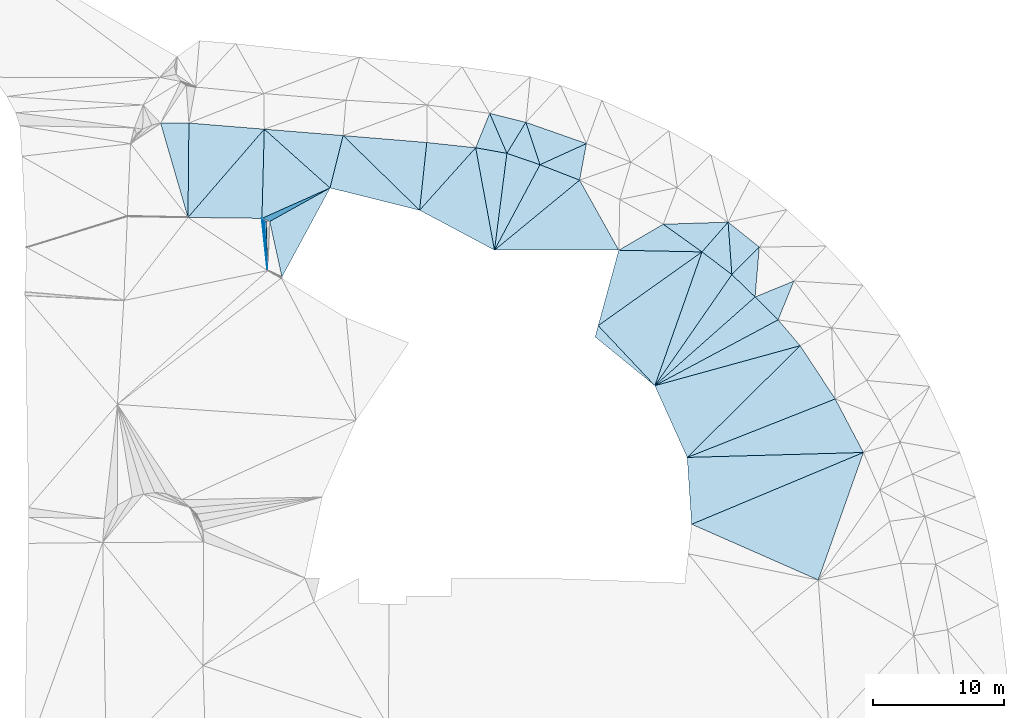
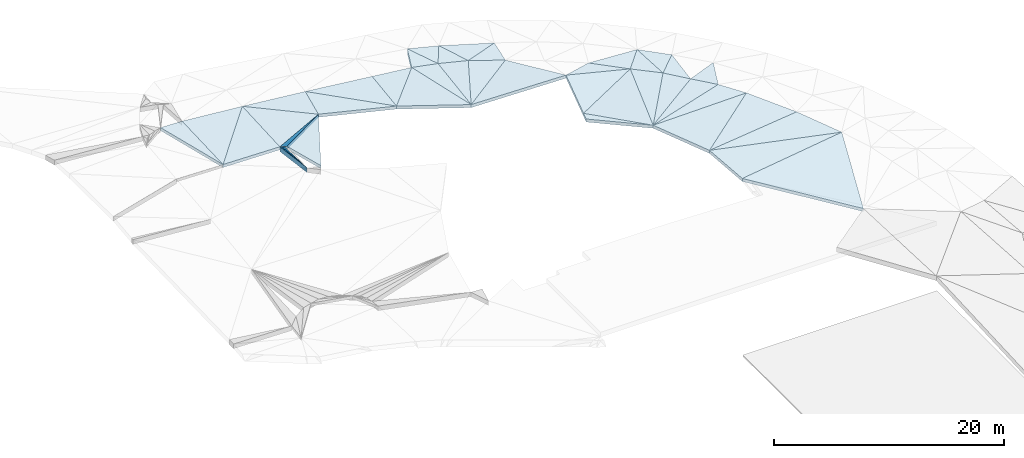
# One storey, part 8 of 23: 40 slabs, 3 elements without a shape of their own.
"""IFC2X3 building model written with IfcOpenShell, lengths in metres."""

from ifc_helpers import new_model, entity, si_unit, converted_unit, direction, frame, origin, place, context, subcontext, project, spatial, polyline, outline, extrude, material, layer, layer_set, type_object, element, aggregate, save


model = new_model("IFC2X3")

# Units and contexts
model_context = context("Model", 3, precision=1e-05, world=origin(), true_north=direction((0.7716245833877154, 0.6360782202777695)))
body_context = subcontext(model_context, "Body", "Model", "MODEL_VIEW")
ifc_project = project(units=[si_unit("LENGTHUNIT", "METRE"), converted_unit("PLANEANGLEUNIT", "DEGREE", entity("IfcPlaneAngleMeasure", 0.017453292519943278), si_unit("PLANEANGLEUNIT", "RADIAN"), dimensions=[0, 0, 0, 0, 0, 0, 0]), si_unit("AREAUNIT", "SQUARE_METRE")], contexts=[model_context])

# Site, building, storey
site_placement = place(None, origin())
site = spatial("IfcSite", under=ifc_project, at=site_placement, Name="Default", CompositionType="ELEMENT")
building_placement = place(site_placement, origin())
building = spatial("IfcBuilding", under=site, at=building_placement, Name="<Building Name>", CompositionType="ELEMENT")
storey_placement = place(building_placement, origin())
storey = spatial("IfcBuildingStorey", under=building, at=storey_placement, Name="00 - HAV", CompositionType="ELEMENT", Elevation=0.0)

# Slabs
slab_1_placement = place(storey_placement, frame((224.3175317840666, 93.71309800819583, 32.7900000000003)))
slab_1 = element("IfcSlab", 1, at=slab_1_placement, inside=storey, Name="Floor:771 Grøntarealer", ObjectType="Floor:771 Grøntarealer", PredefinedType="NOTDEFINED")
ifc_material_1 = material(Name="815 - Terrain, Grøntareal")
ifc_layer_1 = layer(ifc_material_1, 0.02)
ifc_material_2 = material(Name="Site - Soil - Jordlag")
ifc_layer_2 = layer(ifc_material_2, 0.30000000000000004)
ifc_layer_set_1 = layer_set([ifc_layer_1, ifc_layer_2], Name="Floor:771 Grøntarealer")
slab_type_1 = type_object("IfcSlabType", Name="Floor:771 Grøntarealer", PredefinedType="NOTDEFINED")
slab_2_placement = place(slab_1_placement, origin())
slab_2 = element("IfcSlab", 2, at=slab_2_placement, type_object=slab_type_1, material=ifc_layer_set_1, Name="Floor:771 Grøntarealer", ObjectType="Floor:771 Grøntarealer", PredefinedType="NOTDEFINED", context=body_context, shape_type="SweptSolid", body=[
    extrude(outline(polyline([(6.904964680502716, 0.2087169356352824), (4.695563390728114, 4.296252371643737), (-6.904964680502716, -0.2087169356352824), (6.904964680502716, 0.2087169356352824)])), frame((49.56625106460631, 13.607885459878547, 2.7999999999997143), z_axis=(0.21831431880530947, 0.012487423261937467, 0.9757986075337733), x_axis=(0.975878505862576, -0.002793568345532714, -0.21829644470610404)), (0.21829644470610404, 0.01279608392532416, -0.9757986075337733), 0.3200000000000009),
])
slab_3_placement = place(slab_1_placement, origin())
slab_3 = element("IfcSlab", 3, at=slab_3_placement, type_object=slab_type_1, material=ifc_layer_set_1, Name="Floor:771 Grøntarealer", ObjectType="Floor:771 Grøntarealer", PredefinedType="NOTDEFINED", context=body_context, shape_type="SweptSolid", body=[
    extrude(outline(polyline([(6.826397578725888, 2.7703346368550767), (-6.983345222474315, 2.3467738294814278), (-6.636044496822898, -2.7644962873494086), (6.826397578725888, 2.7703346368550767)])), frame((49.64283301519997, 11.049358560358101, 2.820813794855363), z_axis=(0.21825537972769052, 0.01447090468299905, 0.9757843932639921), x_axis=(0.9758916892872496, -0.003236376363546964, -0.21823138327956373)), (0.21823138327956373, 0.014828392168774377, -0.9757843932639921), 0.3200000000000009),
])
slab_4_placement = place(slab_1_placement, origin())
slab_4 = element("IfcSlab", 4, at=slab_4_placement, type_object=slab_type_1, material=ifc_layer_set_1, Name="Floor:771 Grøntarealer", ObjectType="Floor:771 Grøntarealer", PredefinedType="NOTDEFINED", context=body_context, shape_type="SweptSolid", body=[
    extrude(outline(polyline([(5.57154871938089, 6.168944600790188), (-8.189482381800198, 1.424924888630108), (1.953707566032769, -3.5746648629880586), (5.57154871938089, 6.168944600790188)])), frame((50.985407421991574, 7.418620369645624, 1.6307474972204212), z_axis=(0.29751662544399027, -0.1982130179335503, 0.9339140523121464), x_axis=(0.954716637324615, 0.061768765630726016, -0.2910339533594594)), (0.2910339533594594, -0.2076145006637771, -0.9339140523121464), 0.3200000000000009),
])
slab_5_placement = place(slab_1_placement, origin())
slab_5 = element("IfcSlab", 5, at=slab_5_placement, type_object=slab_type_1, material=ifc_layer_set_1, Name="Floor:771 Grøntarealer", ObjectType="Floor:771 Grøntarealer", PredefinedType="NOTDEFINED", context=body_context, shape_type="SweptSolid", body=[
    extrude(outline(polyline([(6.400624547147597, 1.3723844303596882), (3.653631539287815, 5.431612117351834), (-5.186922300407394, -3.1658705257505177), (6.400624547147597, 1.3723844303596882)])), frame((47.895321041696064, 16.554388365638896, 3.121039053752), z_axis=(0.21336866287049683, 0.025493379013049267, 0.9766390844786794), x_axis=(0.9769717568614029, -0.005567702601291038, -0.21329600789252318)), (0.21329600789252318, 0.026094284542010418, -0.9766390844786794), 0.3200000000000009),
])
slab_6_placement = place(slab_1_placement, origin())
slab_6 = element("IfcSlab", 6, at=slab_6_placement, type_object=slab_type_1, material=ifc_layer_set_1, Name="Floor:771 Grøntarealer", ObjectType="Floor:771 Grøntarealer", PredefinedType="NOTDEFINED", context=body_context, shape_type="SweptSolid", body=[
    extrude(outline(polyline([(5.666620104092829, 1.5611106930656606), (3.948629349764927, 3.5330406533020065), (-5.666620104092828, -1.561110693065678), (5.666620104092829, 1.5611106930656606)])), frame((45.90810634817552, 20.435213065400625, 3.3549999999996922), z_axis=(0.19600020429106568, 0.02814008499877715, 0.9802000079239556), x_axis=(0.9806038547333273, -0.005624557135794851, -0.19591948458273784)), (0.19591948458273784, 0.028696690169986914, -0.9802000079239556), 0.3200000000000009),
])
slab_7_placement = place(slab_1_placement, origin())
slab_7 = element("IfcSlab", 7, at=slab_7_placement, type_object=slab_type_1, material=ifc_layer_set_1, Name="Floor:771 Grøntarealer", ObjectType="Floor:771 Grøntarealer", PredefinedType="NOTDEFINED", context=body_context, shape_type="SweptSolid", body=[
    extrude(outline(polyline([(4.857590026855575, 4.449431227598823), (-6.462122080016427, 1.2785137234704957), (-3.939705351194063, -4.192310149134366), (4.857590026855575, 4.449431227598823)])), frame((46.69575169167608, 17.567192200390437, 3.3486558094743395), z_axis=(0.1900430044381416, 0.05002265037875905, 0.980500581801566), x_axis=(0.9817757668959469, -0.009682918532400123, -0.18979616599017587)), (0.18979616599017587, 0.050951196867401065, -0.980500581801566), 0.3200000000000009),
])
slab_8_placement = place(slab_1_placement, origin())
slab_8 = element("IfcSlab", 8, at=slab_8_placement, type_object=slab_type_1, material=ifc_layer_set_1, Name="Floor:771 Grøntarealer", ObjectType="Floor:771 Grøntarealer", PredefinedType="NOTDEFINED", context=body_context, shape_type="SweptSolid", body=[
    extrude(outline(polyline([(4.781248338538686, 2.5962500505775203), (2.992206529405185, 4.324031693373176), (-4.781248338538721, -2.596250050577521), (4.781248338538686, 2.5962500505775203)])), frame((45.06577217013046, 21.425603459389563, 3.4949999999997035), z_axis=(0.16666555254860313, 0.08394111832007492, 0.98243395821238), x_axis=(0.9860134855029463, -0.014188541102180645, -0.16606050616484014)), (0.16606050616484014, 0.08513181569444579, -0.98243395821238), 0.3200000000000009),
])
slab_9_placement = place(slab_1_placement, origin())
slab_9 = element("IfcSlab", 9, at=slab_9_placement, type_object=slab_type_1, material=ifc_layer_set_1, Name="Floor:771 Grøntarealer", ObjectType="Floor:771 Grøntarealer", PredefinedType="NOTDEFINED", context=body_context, shape_type="SweptSolid", body=[
    extrude(outline(polyline([(4.448786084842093, 2.930549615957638), (2.6445138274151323, 4.624539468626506), (-3.344777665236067, -3.967077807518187), (4.448786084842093, 2.930549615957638)])), frame((43.64088325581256, 22.822939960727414, 3.6342480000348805), z_axis=(0.18107449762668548, 0.06731149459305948, 0.9811631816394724), x_axis=(0.9834693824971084, -0.012393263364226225, -0.18064988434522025)), (0.18064988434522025, 0.06844289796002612, -0.9811631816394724), 0.3200000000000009),
])
slab_10_placement = place(slab_1_placement, origin())
slab_10 = element("IfcSlab", 10, at=slab_10_placement, type_object=slab_type_1, material=ifc_layer_set_1, Name="Floor:771 Grøntarealer", ObjectType="Floor:771 Grøntarealer", PredefinedType="NOTDEFINED", context=body_context, shape_type="SweptSolid", body=[
    extrude(outline(polyline([(4.132064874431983, 3.4532289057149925), (1.823011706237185, 5.162138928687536), (-1.8230117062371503, -5.162138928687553), (4.132064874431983, 3.4532289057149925)])), frame((42.15457400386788, 24.02174968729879, 3.7649999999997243), z_axis=(0.1471115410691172, 0.09158329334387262, 0.9848709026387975), x_axis=(0.9891199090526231, -0.013621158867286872, -0.1464795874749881)), (0.1464795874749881, 0.09259068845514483, -0.9848709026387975), 0.3200000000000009),
])
slab_11_placement = place(slab_1_placement, origin())
slab_11 = element("IfcSlab", 11, at=slab_11_placement, type_object=slab_type_1, material=ifc_layer_set_1, Name="Floor:771 Grøntarealer", ObjectType="Floor:771 Grøntarealer", PredefinedType="NOTDEFINED", context=body_context, shape_type="SweptSolid", body=[
    extrude(outline(polyline([(3.269643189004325, 0.04804598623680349), (0.22495118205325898, 2.084771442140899), (-3.2696431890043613, -0.0480459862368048), (3.269643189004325, 0.04804598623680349)])), frame((40.774415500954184, 29.201873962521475, 3.7649999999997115), z_axis=(0.2282464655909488, 0.14675344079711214, 0.9624795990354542), x_axis=(0.9736033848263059, -0.034404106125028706, -0.22563866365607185)), (0.22563866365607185, 0.15073226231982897, -0.9624795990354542), 0.3200000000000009),
])
slab_12_placement = place(slab_1_placement, origin())
slab_12 = element("IfcSlab", 12, at=slab_12_placement, type_object=slab_type_1, material=ifc_layer_set_1, Name="Floor:771 Grøntarealer", ObjectType="Floor:771 Grøntarealer", PredefinedType="NOTDEFINED", context=body_context, shape_type="SweptSolid", body=[
    extrude(outline(polyline([(4.074517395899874, 2.7652952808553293), (-2.4616371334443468, 2.989313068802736), (-4.074517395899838, -2.7652952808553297), (4.074517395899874, 2.7652952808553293)])), frame((39.98888644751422, 26.318790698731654, 3.764999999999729), z_axis=(0.22624730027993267, -0.06164366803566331, 0.9721173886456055), x_axis=(0.9740698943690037, 0.014317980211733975, -0.22579379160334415)), (0.22579379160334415, -0.0632846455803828, -0.9721173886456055), 0.3200000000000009),
])
slab_13_placement = place(slab_1_placement, origin())
slab_13 = element("IfcSlab", 13, at=slab_13_placement, type_object=slab_type_1, material=ifc_layer_set_1, Name="Floor:771 Grøntarealer", ObjectType="Floor:771 Grøntarealer", PredefinedType="NOTDEFINED", context=body_context, shape_type="SweptSolid", body=[
    extrude(outline(polyline([(2.163903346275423, 5.417284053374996), (-5.823290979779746, -0.3445669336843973), (-1.4649244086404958, -4.913050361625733), (2.163903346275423, 5.417284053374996)])), frame((41.80724893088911, 23.775131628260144, 3.830196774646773), z_axis=(0.11112015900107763, 0.10476588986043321, 0.9882694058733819), x_axis=(0.9938069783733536, -0.011714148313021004, -0.11050098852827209)), (0.11050098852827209, 0.10541875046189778, -0.9882694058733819), 0.3200000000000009),
])
slab_14_placement = place(slab_1_placement, origin())
slab_14 = element("IfcSlab", 14, at=slab_14_placement, type_object=slab_type_1, material=ifc_layer_set_1, Name="Floor:771 Grøntarealer", ObjectType="Floor:771 Grøntarealer", PredefinedType="NOTDEFINED", context=body_context, shape_type="SweptSolid", body=[
    extrude(outline(polyline([(3.274184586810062, 2.685142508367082), (0.22350290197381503, 3.858616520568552), (-3.274184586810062, -2.685142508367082), (3.274184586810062, 2.685142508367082)])), frame((31.342376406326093, 31.949953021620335, 4.30499999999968), z_axis=(0.1064581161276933, 0.020927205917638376, 0.994096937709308), x_axis=(0.9943171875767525, -0.0022406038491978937, -0.10643453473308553)), (0.10643453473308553, 0.021046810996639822, -0.994096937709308), 0.3200000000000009),
])
slab_15_placement = place(slab_1_placement, origin())
slab_15 = element("IfcSlab", 15, at=slab_15_placement, type_object=slab_type_1, material=ifc_layer_set_1, Name="Floor:771 Grøntarealer", ObjectType="Floor:771 Grøntarealer", PredefinedType="NOTDEFINED", context=body_context, shape_type="SweptSolid", body=[
    extrude(outline(polyline([(1.318696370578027, 5.037739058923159), (-5.19388921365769, -0.37588532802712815), (4.312478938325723, -0.3567920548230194), (1.318696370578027, 5.037739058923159)])), frame((33.279547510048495, 29.63213631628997, 4.555187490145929), z_axis=(0.020951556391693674, 0.12458690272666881, 0.9919874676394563), x_axis=(0.9997804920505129, -0.0026108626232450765, -0.02078824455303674)), (0.02078824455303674, 0.12461425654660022, -0.9919874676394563), 0.3200000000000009),
])
slab_16_placement = place(slab_1_placement, origin())
slab_16 = element("IfcSlab", 16, at=slab_16_placement, type_object=slab_type_1, material=ifc_layer_set_1, Name="Floor:771 Grøntarealer", ObjectType="Floor:771 Grøntarealer", PredefinedType="NOTDEFINED", context=body_context, shape_type="SweptSolid", body=[
    extrude(outline(polyline([(2.4501680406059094, 3.0340054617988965), (-0.08200019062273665, 3.8989471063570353), (-1.0298904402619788, -3.5191459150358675), (2.4501680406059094, 3.0340054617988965)])), frame((29.116023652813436, 32.78362850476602, 4.466217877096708), z_axis=(0.03593520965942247, 0.058736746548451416, 0.9976265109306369), x_axis=(0.9993541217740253, -0.0021120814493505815, -0.035873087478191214)), (0.035873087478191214, 0.058774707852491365, -0.9976265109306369), 0.3200000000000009),
])
slab_17_placement = place(slab_1_placement, origin())
slab_17 = element("IfcSlab", 17, at=slab_17_placement, type_object=slab_type_1, material=ifc_layer_set_1, Name="Floor:771 Grøntarealer", ObjectType="Floor:771 Grøntarealer", PredefinedType="NOTDEFINED", context=body_context, shape_type="SweptSolid", body=[
    extrude(outline(polyline([(1.6726128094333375, 3.499073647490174), (-0.722565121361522, 3.9187433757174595), (0.7225651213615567, -3.918743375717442), (1.6726128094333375, 3.499073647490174)])), frame((27.366339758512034, 33.188806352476, 4.554999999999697), z_axis=(0.07630250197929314, 0.05344618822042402, 0.9956512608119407), x_axis=(0.9970847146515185, -0.004090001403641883, -0.07619280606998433)), (0.07619280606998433, 0.053602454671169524, -0.9956512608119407), 0.3200000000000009),
])
slab_18_placement = place(slab_1_placement, origin())
slab_18 = element("IfcSlab", 18, at=slab_18_placement, type_object=slab_type_1, material=ifc_layer_set_1, Name="Floor:771 Grøntarealer", ObjectType="Floor:771 Grøntarealer", PredefinedType="NOTDEFINED", context=body_context, shape_type="SweptSolid", body=[
    extrude(outline(polyline([(2.147547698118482, 2.3935614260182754), (-1.5952454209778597, 2.7921836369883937), (-2.1443510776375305, -2.393901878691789), (2.147547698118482, 2.3935614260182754)])), frame((24.49969331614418, 34.71511511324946, 4.555051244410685), z_axis=(0.03558174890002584, 0.032850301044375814, 0.9988267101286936), x_axis=(0.9993667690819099, -0.0011696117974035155, -0.035562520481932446)), (0.035562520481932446, 0.03287111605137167, -0.9988267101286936), 0.3200000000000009),
])
slab_19_placement = place(slab_1_placement, origin())
slab_19 = element("IfcSlab", 19, at=slab_19_placement, type_object=slab_type_1, material=ifc_layer_set_1, Name="Floor:771 Grøntarealer", ObjectType="Floor:771 Grøntarealer", PredefinedType="NOTDEFINED", context=body_context, shape_type="SweptSolid", body=[
    extrude(outline(polyline([(-0.20236995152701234, 4.497600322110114), (-4.492720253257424, -0.29125071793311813), (1.2389401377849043, -3.3405898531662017), (-0.20236995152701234, 4.497600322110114)])), frame((26.848195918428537, 32.61138770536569, 4.5924487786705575), z_axis=(0.023345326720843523, 0.04382668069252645, 0.9987663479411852), x_axis=(0.9997274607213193, -0.001023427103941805, -0.0233228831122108)), (0.0233228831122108, 0.04383862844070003, -0.9987663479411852), 0.3200000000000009),
])
slab_20_placement = place(slab_1_placement, origin())
slab_20 = element("IfcSlab", 20, at=slab_20_placement, type_object=slab_type_1, material=ifc_layer_set_1, Name="Floor:771 Grøntarealer", ObjectType="Floor:771 Grøntarealer", PredefinedType="NOTDEFINED", context=body_context, shape_type="SweptSolid", body=[
    extrude(outline(polyline([(3.415100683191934, 2.3378328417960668), (-2.9928360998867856, 2.8585498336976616), (2.8655852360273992, -2.8482092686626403), (3.415100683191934, 2.3378328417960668)])), frame((19.495065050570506, 35.17652290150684, 4.771822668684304), z_axis=(0.05248884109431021, 0.031034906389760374, 0.9981391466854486), x_axis=(0.9986215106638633, -0.0016312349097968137, -0.05246348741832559)), (0.05246348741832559, 0.0310777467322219, -0.9981391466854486), 0.3200000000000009),
])
slab_21_placement = place(slab_1_placement, origin())
slab_21 = element("IfcSlab", 21, at=slab_21_placement, type_object=slab_type_1, material=ifc_layer_set_1, Name="Floor:771 Grøntarealer", ObjectType="Floor:771 Grøntarealer", PredefinedType="NOTDEFINED", context=body_context, shape_type="SweptSolid", body=[
    extrude(outline(polyline([(3.1744966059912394, 1.8062520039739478), (-2.8586744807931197, 2.273313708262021), (2.176391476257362, -2.220494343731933), (3.1744966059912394, 1.8062520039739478)])), frame((13.33524180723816, 36.249974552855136, 5.1314293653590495), z_axis=(0.0461603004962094, 0.08039522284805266, 0.9956936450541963), x_axis=(0.9989340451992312, -0.0037150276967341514, -0.046010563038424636)), (0.046010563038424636, 0.08048101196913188, -0.9956936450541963), 0.3200000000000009),
])
slab_22_placement = place(slab_1_placement, origin())
slab_22 = element("IfcSlab", 22, at=slab_22_placement, type_object=slab_type_1, material=ifc_layer_set_1, Name="Floor:771 Grøntarealer", ObjectType="Floor:771 Grøntarealer", PredefinedType="NOTDEFINED", context=body_context, shape_type="SweptSolid", body=[
    extrude(outline(polyline([(-2.9317812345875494, 2.8664671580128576), (-3.9328671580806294, -1.1595391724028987), (2.9422976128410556, -2.8241740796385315), (-2.9317812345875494, 2.8664671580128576)])), frame((19.426290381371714, 35.16073213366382, 4.776943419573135), z_axis=(0.08980177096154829, 0.06934571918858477, 0.9935425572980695), x_axis=(0.9959596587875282, -0.006252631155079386, -0.089583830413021)), (0.089583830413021, 0.06962703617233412, -0.9935425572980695), 0.3200000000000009),
])
slab_23_placement = place(slab_1_placement, origin())
slab_23 = element("IfcSlab", 23, at=slab_23_placement, type_object=slab_type_1, material=ifc_layer_set_1, Name="Floor:771 Grøntarealer", ObjectType="Floor:771 Grøntarealer", PredefinedType="NOTDEFINED", context=body_context, shape_type="SweptSolid", body=[
    extrude(outline(polyline([(3.178994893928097, 3.3553070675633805), (-2.588528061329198, 3.8293101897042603), (-2.659092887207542, -3.398035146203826), (3.178994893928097, 3.3553070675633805)])), frame((7.301659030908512, 35.170251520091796, 5.072211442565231), z_axis=(0.02556947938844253, -0.02652992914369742, 0.9993209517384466), x_axis=(0.999673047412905, 0.0006785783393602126, -0.025560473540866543)), (0.025560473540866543, -0.02653860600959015, -0.9993209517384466), 0.3200000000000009),
])
slab_24_placement = place(slab_1_placement, origin())
slab_24 = element("IfcSlab", 24, at=slab_24_placement, type_object=slab_type_1, material=ifc_layer_set_1, Name="Floor:771 Grøntarealer", ObjectType="Floor:771 Grøntarealer", PredefinedType="NOTDEFINED", context=body_context, shape_type="SweptSolid", body=[
    extrude(outline(polyline([(1.2821150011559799, 4.791080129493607), (-4.554382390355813, -1.9636366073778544), (1.1010298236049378, -2.033010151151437), (1.2821150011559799, 4.791080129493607)])), frame((9.19756948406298, 33.73570794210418, 5.0288752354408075), z_axis=(0.01044507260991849, -0.013464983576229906, 0.9998547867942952), x_axis=(0.9999454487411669, 0.00014065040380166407, -0.010444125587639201)), (0.010444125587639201, -0.013465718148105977, -0.9998547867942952), 0.3200000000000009),
])
slab_25_placement = place(slab_1_placement, origin())
slab_25 = element("IfcSlab", 25, at=slab_25_placement, type_object=slab_type_1, material=ifc_layer_set_1, Name="Floor:771 Grøntarealer", ObjectType="Floor:771 Grøntarealer", PredefinedType="NOTDEFINED", context=body_context, shape_type="SweptSolid", body=[
    extrude(outline(polyline([(-2.483825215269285, 3.4804014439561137), (-2.665022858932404, -3.343685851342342), (2.5492719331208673, -1.01561157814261), (-2.483825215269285, 3.4804014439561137)])), frame((12.961762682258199, 35.04527758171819, 5.128746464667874), z_axis=(-0.03674156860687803, -0.01220481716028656, 0.9992502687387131), x_axis=(0.9993248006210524, -0.00044872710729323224, 0.03673882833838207)), (-0.03673882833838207, -0.012213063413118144, -0.9992502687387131), 0.3200000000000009),
])
slab_26_placement = place(slab_1_placement, origin())
slab_26 = element("IfcSlab", 26, at=slab_26_placement, type_object=slab_type_1, material=ifc_layer_set_1, Name="Floor:771 Grøntarealer", ObjectType="Floor:771 Grøntarealer", PredefinedType="NOTDEFINED", context=body_context, shape_type="SweptSolid", body=[
    extrude(outline(polyline([(1.06904690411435, 3.6181281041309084), (-1.1001954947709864, 3.608778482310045), (0.9984567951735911, -3.609216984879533), (1.06904690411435, 3.6181281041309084)])), frame((3.645662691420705, 35.37855910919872, 5.183123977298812), z_axis=(0.03700724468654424, -0.02663211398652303, 0.9989600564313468), x_axis=(0.9993149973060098, 0.000986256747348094, -0.03699410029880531)), (0.03699410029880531, -0.02665036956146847, -0.9989600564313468), 0.3200000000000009),
])
slab_27_placement = place(slab_1_placement, origin())
slab_27 = element("IfcSlab", 27, at=slab_27_placement, type_object=slab_type_1, material=ifc_layer_set_1, Name="Floor:771 Grøntarealer", ObjectType="Floor:771 Grøntarealer", PredefinedType="NOTDEFINED", context=body_context, shape_type="SweptSolid", body=[
    extrude(outline(polyline([(-2.6053873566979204, -1.1679711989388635), (-2.009979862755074, -1.4039973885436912), (2.6053873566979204, 1.1679711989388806), (-2.6053873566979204, -1.1679711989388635)])), frame((12.90392629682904, 32.865817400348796, 5.099999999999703), z_axis=(0.00048384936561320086, -0.09525480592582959, 0.9954528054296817), x_axis=(0.9999998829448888, 4.608898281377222e-05, -0.0004816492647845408)), (0.0004816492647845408, -0.0952548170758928, -0.9954528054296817), 0.3200000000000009),
])
slab_28_placement = place(slab_1_placement, origin())
slab_28 = element("IfcSlab", 28, at=slab_28_placement, type_object=slab_type_1, material=ifc_layer_set_1, Name="Floor:771 Grøntarealer", ObjectType="Floor:771 Grøntarealer", PredefinedType="NOTDEFINED", context=body_context, shape_type="SweptSolid", body=[
    extrude(outline(polyline([(-2.7820351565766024, 0.8523888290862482), (-1.845071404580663, -3.403177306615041), (1.845071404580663, 3.403177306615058), (-2.7820351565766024, 0.8523888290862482)])), frame((13.66892325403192, 30.622923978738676, 5.194055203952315), z_axis=(-0.07118958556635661, 0.03380282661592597, 0.9968898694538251), x_axis=(0.9974628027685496, 0.002412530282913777, 0.07114869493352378)), (-0.07114869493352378, 0.03388880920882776, -0.9968898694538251), 0.3200000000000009),
])
slab_29_placement = place(slab_1_placement, origin())
slab_29 = element("IfcSlab", 29, at=slab_29_placement, type_object=slab_type_1, material=ifc_layer_set_1, Name="Floor:771 Grøntarealer", ObjectType="Floor:771 Grøntarealer", PredefinedType="NOTDEFINED", context=body_context, shape_type="SweptSolid", body=[
    extrude(outline(polyline([(-2.1656875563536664, 2.297041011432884), (-2.3982128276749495, 1.4314591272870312), (2.1656875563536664, -2.2970410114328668), (-2.1656875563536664, 2.297041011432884)])), frame((38.185709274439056, 21.20365853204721, 4.509999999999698)), (0.0, 0.0, -1.0), 0.3200000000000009),
])
aggregate(slab_1, [slab_2, slab_3, slab_4, slab_5, slab_6, slab_7, slab_8, slab_9, slab_10, slab_11, slab_12, slab_13, slab_14, slab_15, slab_16, slab_17, slab_18, slab_19, slab_20, slab_21, slab_22, slab_23, slab_24, slab_25, slab_26, slab_27, slab_28, slab_29])

slab_30_placement = place(storey_placement, frame((222.56682960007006, 78.98489431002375, 36.43999999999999)))
slab_30 = element("IfcSlab", 30, at=slab_30_placement, inside=storey, Name="Floor:761 Asfalt - Kjørearealer", ObjectType="Floor:761 Asfalt - Kjørearealer", PredefinedType="NOTDEFINED")
ifc_material_3 = material(Name="Site - Asphalt - Asfaltbetong")
ifc_layer_3 = layer(ifc_material_3, 0.03)
ifc_material_4 = material(Name="A_Default_Building_Part")
ifc_layer_4 = layer(ifc_material_4, 0.07)
ifc_material_5 = material(Name="Site - Gravel - Stabilitet grus")
ifc_layer_5 = layer(ifc_material_5, 0.2)
ifc_material_6 = material(Name="Site - Gravel - Bunnsikringsgrus")
ifc_layer_6 = layer(ifc_material_6, 0.2)
ifc_layer_set_2 = layer_set([ifc_layer_3, ifc_layer_4, ifc_layer_5, ifc_layer_6], Name="Floor:761 Asfalt - Kjørearealer")
slab_type_2 = type_object("IfcSlabType", Name="Floor:761 Asfalt - Kjørearealer", PredefinedType="NOTDEFINED")
slab_31_placement = place(slab_30_placement, origin())
slab_31 = element("IfcSlab", 31, at=slab_31_placement, type_object=slab_type_2, material=ifc_layer_set_2, Name="Floor:761 Asfalt - Kjørearealer", ObjectType="Floor:761 Asfalt - Kjørearealer", PredefinedType="NOTDEFINED", context=body_context, shape_type="SweptSolid", body=[
    extrude(outline(polyline([(0.1451131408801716, -1.9604635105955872), (0.05019527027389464, 1.849312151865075), (-0.14511314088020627, 1.9604635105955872), (0.1451131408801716, -1.9604635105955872)])), frame((12.33606227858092, 44.39325544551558, 1.3550000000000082), z_axis=(0.004546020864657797, 0.007987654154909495, 0.9999577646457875), x_axis=(0.9999896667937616, -3.631241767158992e-05, -0.00454587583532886)), (0.00454587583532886, 0.007987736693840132, -0.9999577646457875), 0.49999999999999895),
])
slab_32_placement = place(slab_30_placement, origin())
slab_32 = element("IfcSlab", 32, at=slab_32_placement, type_object=slab_type_2, material=ifc_layer_set_2, Name="Floor:761 Asfalt - Kjørearealer", ObjectType="Floor:761 Asfalt - Kjørearealer", PredefinedType="NOTDEFINED", context=body_context, shape_type="SweptSolid", body=[
    extrude(outline(polyline([(0.21596830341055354, -1.9992517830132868), (-0.0742577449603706, 1.9216752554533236), (-0.21596830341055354, 1.9992517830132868), (0.21596830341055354, -1.9992517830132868)])), frame((12.26520767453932, 44.432044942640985, 1.3550000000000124), z_axis=(0.0043655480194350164, 0.007974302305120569, 0.9999586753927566), x_axis=(0.9999904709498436, -3.4812531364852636e-05, -0.004365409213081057)), (0.004365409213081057, 0.007974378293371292, -0.9999586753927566), 0.49999999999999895),
])
aggregate(slab_30, [slab_31, slab_32])

slab_33_placement = place(storey_placement, frame((224.56733296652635, 45.19076679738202, 29.34)))
slab_33 = element("IfcSlab", 33, at=slab_33_placement, inside=storey, Name="Floor:761 Asfalt - Gangarealer", ObjectType="Floor:761 Asfalt - Gangarealer", PredefinedType="NOTDEFINED")
ifc_material_7 = material(Name="Site - Aspahlt - Pulverasfalt")
ifc_layer_7 = layer(ifc_material_7, 0.025)
ifc_layer_8 = layer(ifc_material_4, 0.05)
ifc_layer_9 = layer(ifc_material_5, 0.1)
ifc_layer_10 = layer(ifc_material_6, 0.325)
ifc_layer_set_3 = layer_set([ifc_layer_7, ifc_layer_8, ifc_layer_9, ifc_layer_10], Name="Floor:761 Asfalt - Gangarealer")
slab_type_3 = type_object("IfcSlabType", Name="Floor:761 Asfalt - Gangarealer", PredefinedType="NOTDEFINED")
slab_34_placement = place(slab_33_placement, origin())
slab_34 = element("IfcSlab", 34, at=slab_34_placement, type_object=slab_type_3, material=ifc_layer_set_3, Name="Floor:761 Asfalt - Gangarealer", ObjectType="Floor:761 Asfalt - Gangarealer", PredefinedType="NOTDEFINED", context=body_context, shape_type="SweptSolid", body=[
    extrude(outline(polyline([(-1.4440704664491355, -1.1511289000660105), (0.9486773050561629, -1.584439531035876), (-0.37167425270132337, 1.4799481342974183), (-1.4440704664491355, -1.1511289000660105)])), frame((27.83740290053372, 86.7804248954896, 7.7942917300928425), z_axis=(0.06165713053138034, -0.028865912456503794, 0.9976798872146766), x_axis=(0.9980973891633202, 0.001783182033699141, -0.061631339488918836)), (0.061631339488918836, -0.0289209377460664, -0.9976798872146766), 0.49999999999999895),
])
slab_35_placement = place(slab_33_placement, origin())
slab_35 = element("IfcSlab", 35, at=slab_35_placement, type_object=slab_type_3, material=ifc_layer_set_3, Name="Floor:761 Asfalt - Gangarealer", ObjectType="Floor:761 Asfalt - Gangarealer", PredefinedType="NOTDEFINED", context=body_context, shape_type="SweptSolid", body=[
    extrude(outline(polyline([(-1.7064488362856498, -0.8513054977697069), (0.8246019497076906, -1.719511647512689), (-0.25561042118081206, 1.524335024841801), (-1.7064488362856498, -0.8513054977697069)])), frame((30.490374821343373, 86.04912901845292, 7.644496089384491), z_axis=(0.02023105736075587, 0.012899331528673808, 0.999712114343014), x_axis=(0.999795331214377, -0.00026102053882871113, -0.020229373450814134)), (0.020229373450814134, 0.012901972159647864, -0.999712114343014), 0.49999999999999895),
])
slab_36_placement = place(slab_33_placement, origin())
slab_36 = element("IfcSlab", 36, at=slab_36_placement, type_object=slab_type_3, material=ifc_layer_set_3, Name="Floor:761 Asfalt - Gangarealer", ObjectType="Floor:761 Asfalt - Gangarealer", PredefinedType="NOTDEFINED", context=body_context, shape_type="SweptSolid", body=[
    extrude(outline(polyline([(0.43549962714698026, -1.8995422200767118), (1.8903997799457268, 0.4736129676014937), (-0.8862997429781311, 1.164221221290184), (0.43549962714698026, -1.8995422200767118)])), frame((28.350080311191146, 87.09667173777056, 7.765704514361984), z_axis=(0.07734822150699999, -0.022058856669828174, 0.9967600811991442), x_axis=(0.997004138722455, 0.0017113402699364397, -0.07732928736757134)), (0.07732928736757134, -0.02212514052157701, -0.9967600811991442), 0.49999999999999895),
])
slab_37_placement = place(slab_33_placement, origin())
slab_37 = element("IfcSlab", 37, at=slab_37_placement, type_object=slab_type_3, material=ifc_layer_set_3, Name="Floor:761 Asfalt - Gangarealer", ObjectType="Floor:761 Asfalt - Gangarealer", PredefinedType="NOTDEFINED", context=body_context, shape_type="SweptSolid", body=[
    extrude(outline(polyline([(-2.028988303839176, -0.7153263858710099), (1.019496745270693, -1.8944951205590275), (1.540201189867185, 0.9043916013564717), (-2.028988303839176, -0.7153263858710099)])), frame((33.333719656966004, 85.04427907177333, 7.44594934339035), z_axis=(0.09953902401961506, 0.0029044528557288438, 0.9950294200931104), x_axis=(0.9950336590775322, -0.00029054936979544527, -0.09953859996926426)), (0.09953859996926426, 0.002918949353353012, -0.9950294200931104), 0.49999999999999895),
])
slab_38_placement = place(slab_33_placement, origin())
slab_38 = element("IfcSlab", 38, at=slab_38_placement, type_object=slab_type_3, material=ifc_layer_set_3, Name="Floor:761 Asfalt - Gangarealer", ObjectType="Floor:761 Asfalt - Gangarealer", PredefinedType="NOTDEFINED", context=body_context, shape_type="SweptSolid", body=[
    extrude(outline(polyline([(-1.0752344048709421, -2.3609206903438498), (2.489192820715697, -0.7307493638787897), (-2.1591678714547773, 0.8816844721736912), (-1.0752344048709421, -2.3609206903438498)])), frame((32.38613186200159, 86.68587630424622, 7.476665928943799), z_axis=(0.08520925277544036, 0.03450845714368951, 0.9957653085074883), x_axis=(0.9963630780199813, -0.002951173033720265, -0.08515813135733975)), (0.08515813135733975, 0.03463441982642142, -0.9957653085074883), 0.49999999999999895),
])
slab_39_placement = place(slab_33_placement, origin())
slab_39 = element("IfcSlab", 39, at=slab_39_placement, type_object=slab_type_3, material=ifc_layer_set_3, Name="Floor:761 Asfalt - Gangarealer", ObjectType="Floor:761 Asfalt - Gangarealer", PredefinedType="NOTDEFINED", context=body_context, shape_type="SweptSolid", body=[
    extrude(outline(polyline([(-2.4887376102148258, -0.06826498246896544), (0.4861478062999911, -2.205659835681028), (2.488737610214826, 0.06826498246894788), (-2.4887376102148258, -0.06826498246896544)])), frame((43.22352836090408, 79.85830053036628, 6.644999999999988), z_axis=(0.08419515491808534, -0.06060235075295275, 0.994604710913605), x_axis=(0.9964492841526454, 0.005120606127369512, -0.08403929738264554)), (0.08403929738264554, -0.060818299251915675, -0.994604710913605), 0.49999999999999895),
])
slab_40_placement = place(slab_33_placement, origin())
slab_40 = element("IfcSlab", 40, at=slab_40_placement, type_object=slab_type_3, material=ifc_layer_set_3, Name="Floor:761 Asfalt - Gangarealer", ObjectType="Floor:761 Asfalt - Gangarealer", PredefinedType="NOTDEFINED", context=body_context, shape_type="SweptSolid", body=[
    extrude(outline(polyline([(-2.057975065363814, -0.334219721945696), (0.2292008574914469, -2.0723009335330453), (-0.05966031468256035, 1.943462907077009), (-2.057975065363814, -0.334219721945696)])), frame((45.763004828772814, 77.99691900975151, 6.371671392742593), z_axis=(0.0532536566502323, -0.03347674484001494, 0.9980197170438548), x_axis=(0.9985810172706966, 0.0017852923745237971, -0.05322372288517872)), (0.05322372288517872, -0.03352431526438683, -0.9980197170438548), 0.49999999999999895),
])
slab_41_placement = place(slab_33_placement, origin())
slab_41 = element("IfcSlab", 41, at=slab_41_placement, type_object=slab_type_3, material=ifc_layer_set_3, Name="Floor:761 Asfalt - Gangarealer", ObjectType="Floor:761 Asfalt - Gangarealer", PredefinedType="NOTDEFINED", context=body_context, shape_type="SweptSolid", body=[
    extrude(outline(polyline([(-1.9233917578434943, -0.20998610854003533), (-0.14342497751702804, -1.929497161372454), (0.18268595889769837, 1.8915696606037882), (-1.9233917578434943, -0.20998610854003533)])), frame((47.909307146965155, 76.14216935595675, 6.147315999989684), z_axis=(0.07869583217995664, -0.040606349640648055, 0.9960713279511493), x_axis=(0.9968986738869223, 0.003205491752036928, -0.07863052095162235)), (0.07863052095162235, -0.040732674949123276, -0.9960713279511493), 0.49999999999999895),
])
slab_42_placement = place(slab_33_placement, origin())
slab_42 = element("IfcSlab", 42, at=slab_42_placement, type_object=slab_type_3, material=ifc_layer_set_3, Name="Floor:761 Asfalt - Gangarealer", ObjectType="Floor:761 Asfalt - Gangarealer", PredefinedType="NOTDEFINED", context=body_context, shape_type="SweptSolid", body=[
    extrude(outline(polyline([(0.023784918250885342, -2.128561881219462), (2.128539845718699, -0.02568131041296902), (-0.26538199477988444, 1.887179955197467), (0.023784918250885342, -2.128561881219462)])), frame((45.96815439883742, 78.05358983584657, 6.360408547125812), z_axis=(0.07030983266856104, -0.03221282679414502, 0.9970049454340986), x_axis=(0.9975252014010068, 0.002270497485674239, -0.07027316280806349)), (0.07027316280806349, -0.032292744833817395, -0.9970049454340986), 0.49999999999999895),
])
slab_43_placement = place(slab_33_placement, origin())
slab_43 = element("IfcSlab", 43, at=slab_43_placement, type_object=slab_type_3, material=ifc_layer_set_3, Name="Floor:761 Asfalt - Gangarealer", ObjectType="Floor:761 Asfalt - Gangarealer", PredefinedType="NOTDEFINED", context=body_context, shape_type="SweptSolid", body=[
    extrude(outline(polyline([(-1.9248138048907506, -0.17393281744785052), (-0.15960330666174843, -1.9260549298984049), (1.050355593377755, 1.0419072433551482), (-1.9248138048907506, -0.17393281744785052)])), frame((49.68984193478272, 74.39098012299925, 6.017846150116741), z_axis=(0.036730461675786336, -0.04861662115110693, 0.9981419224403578), x_axis=(0.9993252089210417, 0.0017869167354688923, -0.03668696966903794)), (0.03668696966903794, -0.04864944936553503, -0.9981419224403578), 0.49999999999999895),
])
aggregate(slab_33, [slab_34, slab_35, slab_36, slab_37, slab_38, slab_39, slab_40, slab_41, slab_42, slab_43])

save(model, "model.ifc")
